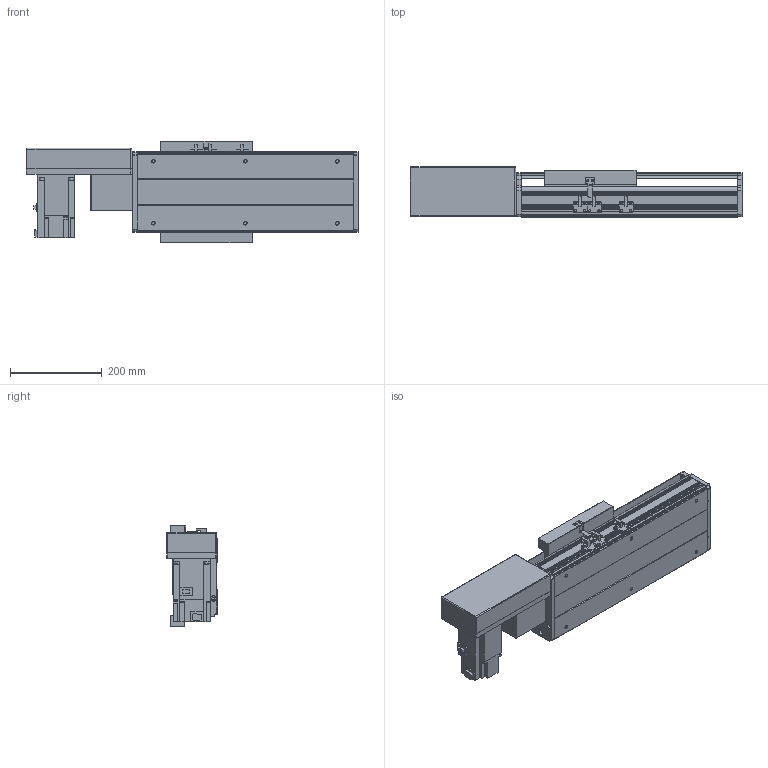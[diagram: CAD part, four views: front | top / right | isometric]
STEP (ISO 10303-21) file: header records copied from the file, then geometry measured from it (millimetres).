
FILE_DESCRIPTION(/* description */ ('STEP AP214'),/* implementation_level */ '2;1');
FILE_NAME(/* name */ 'PBS200-P40-S100-R-T75-C1-N(0)',/* time_stamp */ '2022-06-11T08:01:44+02:00',/* author */ ('License CC BY-ND 4.0'),/* organization */ ('CADENAS'),/* preprocessor_version */ 'ST-DEVELOPER v18.102',/* originating_system */ 'PARTsolutions',/* authorisation */ ' ');
FILE_SCHEMA (('AUTOMOTIVE_DESIGN {1 0 10303 214 3 1 1}'));
Length unit declared in the file: millimetre
Products named in the file (7): PBS200-P40-S100-R-T75-C1-N(0); PBS200_sensor; PBS200_plant; PBS200_sliser; T75-p1; PBS200T-R_motors; PBS200-S100()_body
Assembly tree (8 placements, depth 2):
  PBS200-P40-S100-R-T75-C1-N(0)
    PBS200_sensor  x3
    PBS200_plant
    PBS200_sliser
    T75-p1
    PBS200T-R_motors
    PBS200-S100()_body
Bounding box: 722 x 109 x 221 mm (x, y, z)
Volume: 5617678 mm3; surface area: 933250.8 mm2
Topology: 8 solids, 8 shells, 890 faces, 2324 edges, 1518 vertices
Faces by surface type: plane 564, cylinder 288, cone 38
Full cylindrical faces by diameter (mm): 2.459 x6, 3.242 x4, 4.5 x6, 4.917 x4, 5 x6, 6 x7, 6.6 x8, 6.647 x10, 8 x6, 10 x4, 12 x8, 38 x2, 40 x1, 70 x1
Entity records: 23981 total; most frequent: DIRECTION 4207, CARTESIAN_POINT 4102, ORIENTED_EDGE 3922, EDGE_CURVE 1961, AXIS2_PLACEMENT_3D 1447, VERTEX_POINT 1342, LINE 1313, VECTOR 1313
